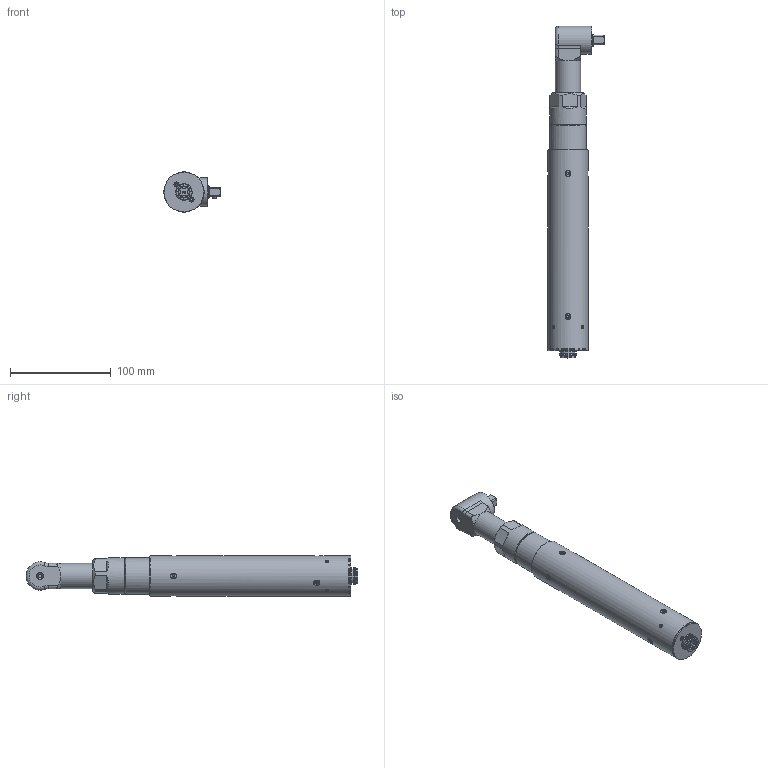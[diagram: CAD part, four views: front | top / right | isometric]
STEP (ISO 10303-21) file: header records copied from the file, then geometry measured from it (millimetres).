
FILE_DESCRIPTION (( 'STEP AP214' ), '1' );
FILE_NAME ('135115-A KDS 15CA Angolare +testina ANG HD28.STEP', '2025-10-07T11:10:24', ( '' ), ( '' ), 'SwSTEP 2.0', 'SolidWorks 2024', '' );
FILE_SCHEMA (( 'AUTOMOTIVE_DESIGN' ));
Length unit declared in the file: millimetre
Products named in the file (1): 135115-A KDS 15CA Angolare +testina ANG HD28
Bounding box: 55.7 x 329 x 39.8 mm (x, y, z)
Surface area: 49395.8 mm2 (no closed solid volume)
Topology: 0 solids, 53 shells, 220 faces, 747 edges, 559 vertices
Faces by surface type: plane 80, cylinder 77, cone 43, torus 11, bspline 8, sphere 1
Full cylindrical faces by diameter (mm): 1 x10, 1.4 x2, 2 x3, 2.8 x4, 4.8 x2, 5.5 x7, 6.5 x1, 7 x1, 11.8 x1, 12 x2, 14.85 x2, 16 x2, 24.1 x1, 25 x1, 25.2 x1, 25.5 x1, 28 x1, 36 x2, 37.4 x1, 39.8 x2
Entity records: 14269 total; most frequent: CARTESIAN_POINT 6018, DIRECTION 1244, ORIENTED_EDGE 877, EDGE_CURVE 613, AXIS2_PLACEMENT_3D 529, VERTEX_POINT 523, EDGE_LOOP 375, CIRCLE 316
